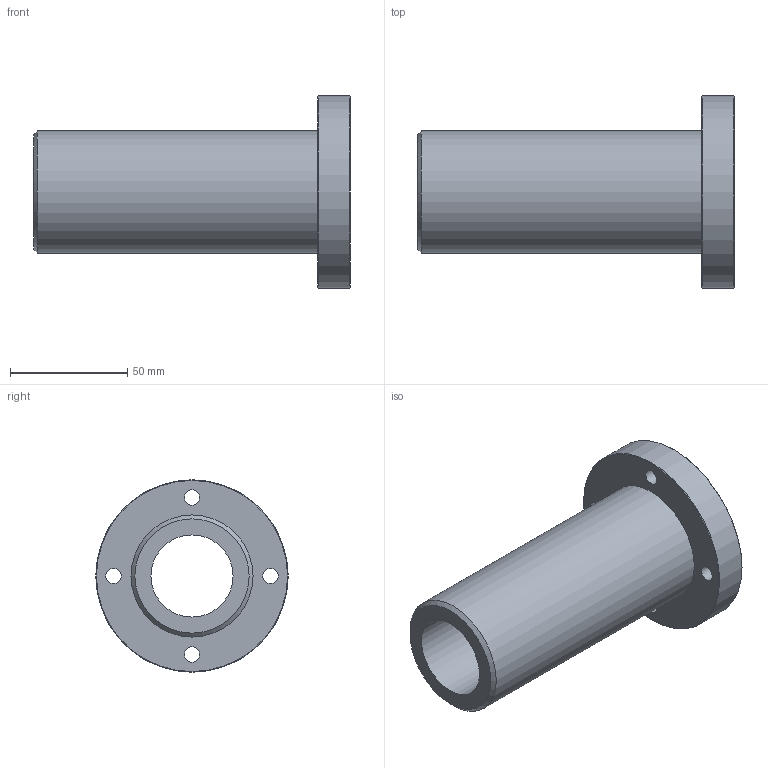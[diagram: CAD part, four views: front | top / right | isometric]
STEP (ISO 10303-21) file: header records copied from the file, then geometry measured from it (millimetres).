
FILE_DESCRIPTION(('STEP AP203'),'1');
FILE_NAME('//192.168.1.1/share/s-4 技術開発/s-4-4_CAD/s-4-4-3_見直し済み/PBC LINEAR修正済み/DFPJ/DFPJ_TOP/DFPJR/DFPJR35.step','2022-03-24T05:35:20',(' '),(' '),'Spatial InterOp 3D',' ',' ');
FILE_SCHEMA(('CONFIG_CONTROL_DESIGN'));
Length unit declared in the file: millimetre
Products named in the file (1): 1
Bounding box: 135 x 82 x 82 mm (x, y, z)
Volume: 197384.6 mm3; surface area: 47841.7 mm2
Topology: 1 solids, 1 shells, 21 faces, 45 edges, 31 vertices
Faces by surface type: cylinder 11, plane 7, cone 3
Full cylindrical faces by diameter (mm): 6.6 x4, 11 x4, 35 x1, 52 x1, 82 x1
Entity records: 528 total; most frequent: DIRECTION 94, CARTESIAN_POINT 72, EDGE_LOOP 50, ORIENTED_EDGE 50, AXIS2_PLACEMENT_3D 47, FACE_OUTER_BOUND 32, EDGE_CURVE 25, VERTEX_POINT 25
